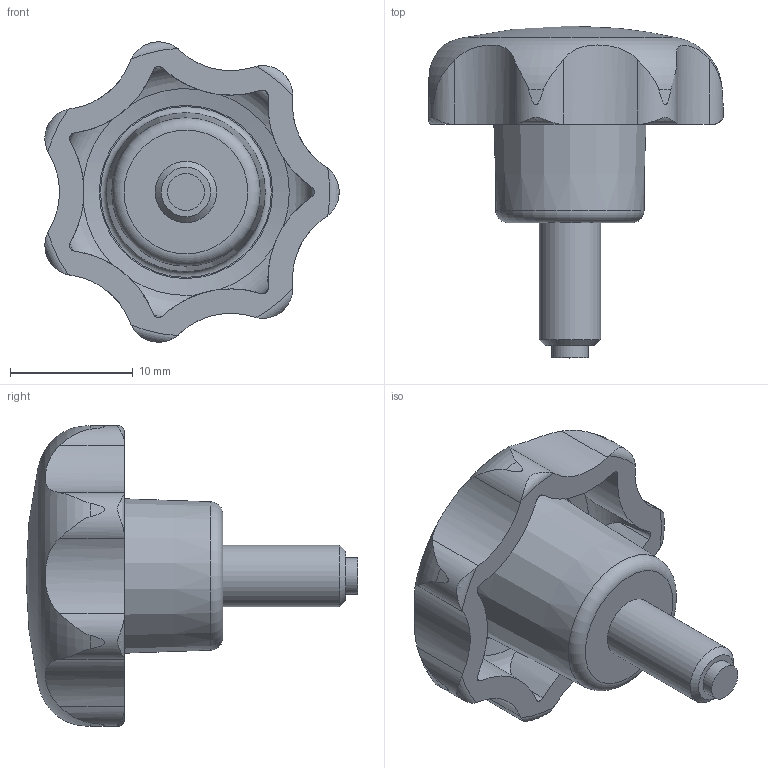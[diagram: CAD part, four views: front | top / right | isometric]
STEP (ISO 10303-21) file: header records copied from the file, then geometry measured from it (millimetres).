
FILE_DESCRIPTION( ( 'STEP AP203' ), '1' );
FILE_NAME( 'C:/Temp/Ganter_Step_05_03_2020/data/2_2/gn6336_10/Star knob GN 6336.10-25-M5-10-KU.stp', '2020-03-05T12:04:17', ( 'License CC BY-ND 4.0' ), ( 'CADENAS' ), ' ', 'PARTsolutions', ' ' );
FILE_SCHEMA( ( 'CONFIG_CONTROL_DESIGN' ) );
Length unit declared in the file: millimetre
Products named in the file (1): _Star knob GN 6336.10-25-M5-10-KU
Bounding box: 23.93 x 27 x 24.42 mm (x, y, z)
Volume: 3306 mm3; surface area: 2217.9 mm2
Topology: 1 solids, 1 shells, 70 faces, 194 edges, 128 vertices
Faces by surface type: cylinder 30, torus 18, cone 17, plane 4, sphere 1
Full cylindrical faces by diameter (mm): 3 x1, 5 x1
Entity records: 3018 total; most frequent: CARTESIAN_POINT 1333, ORIENTED_EDGE 358, DIRECTION 318, EDGE_CURVE 179, AXIS2_PLACEMENT_3D 145, VERTEX_POINT 124, EDGE_LOOP 82, B_SPLINE_CURVE_WITH_KNOTS 77
